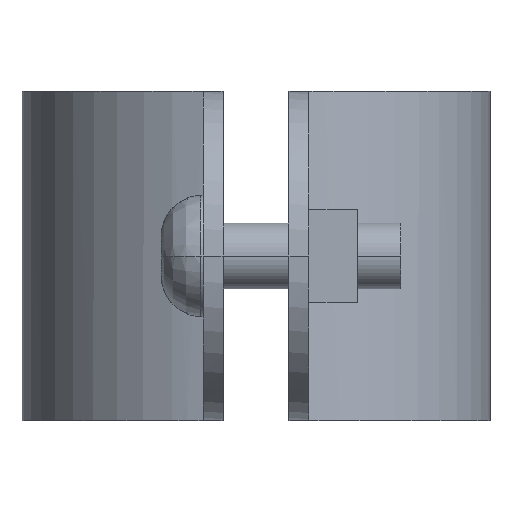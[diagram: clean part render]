
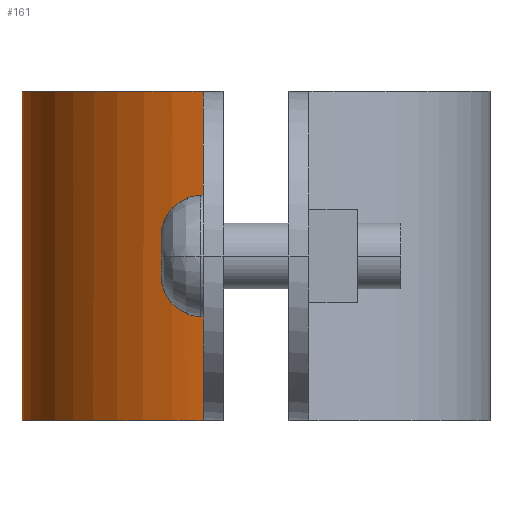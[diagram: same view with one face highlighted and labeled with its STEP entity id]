
A CAD part, left-side view. The second image highlights one B-rep face of the part: STEP entity #161.
In plain terms, the highlighted free-form (B-spline) face has degree [3, 1] with [4, 2] control points.
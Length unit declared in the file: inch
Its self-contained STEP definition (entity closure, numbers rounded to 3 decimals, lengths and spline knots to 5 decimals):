
#161=ADVANCED_FACE('',(#377),#378,.T.);
#377=FACE_OUTER_BOUND('',#682,.T.);
#378=B_SPLINE_SURFACE_WITH_KNOTS('',3,1,((#683,#684),(#685,#686),(#687,#688),(#689,#690)),.UNSPECIFIED.,.F.,.F.,.F.,(4,4),(2,2),(-1.0,-0.0),(0.0,1.25),.UNSPECIFIED.);
#682=EDGE_LOOP('',(#1429,#1430,#1431,#1432));
#683=CARTESIAN_POINT('',(1.39567,1.94918,0.0));
#684=CARTESIAN_POINT('',(1.39567,1.94918,1.25));
#685=CARTESIAN_POINT('',(0.98215,1.94918,0.0));
#686=CARTESIAN_POINT('',(0.98215,1.94918,1.25));
#687=CARTESIAN_POINT('',(0.6233,1.66388,0.0));
#688=CARTESIAN_POINT('',(0.6233,1.66388,1.25));
#689=CARTESIAN_POINT('',(0.53012,1.26101,0.0));
#690=CARTESIAN_POINT('',(0.53012,1.26101,1.25));
#1429=ORIENTED_EDGE('',*,*,#2040,.T.);
#1430=ORIENTED_EDGE('',*,*,#2041,.F.);
#1431=ORIENTED_EDGE('',*,*,#2042,.T.);
#1432=ORIENTED_EDGE('',*,*,#2043,.T.);
#2040=EDGE_CURVE('',#2330,#2331,#2332,.T.);
#2041=EDGE_CURVE('',#2333,#2331,#2334,.T.);
#2042=EDGE_CURVE('',#2333,#2335,#2336,.T.);
#2043=EDGE_CURVE('',#2335,#2330,#2337,.T.);
#2330=VERTEX_POINT('',#2781);
#2331=VERTEX_POINT('',#2782);
#2332=B_SPLINE_CURVE_WITH_KNOTS('',3,(#2783,#2784,#2785,#2786),.UNSPECIFIED.,.F.,.F.,(4,4),(0.0,1.0),.UNSPECIFIED.);
#2333=VERTEX_POINT('',#2787);
#2334=LINE('',#2788,#2789);
#2335=VERTEX_POINT('',#2790);
#2336=B_SPLINE_CURVE_WITH_KNOTS('',3,(#2791,#2792,#2793,#2794),.UNSPECIFIED.,.F.,.F.,(4,4),(-1.0,-0.0),.UNSPECIFIED.);
#2337=LINE('',#2795,#2796);
#2781=CARTESIAN_POINT('',(0.53012,1.26101,1.24989));
#2782=CARTESIAN_POINT('',(1.39567,1.94918,1.24989));
#2783=CARTESIAN_POINT('',(0.53012,1.26101,1.24989));
#2784=CARTESIAN_POINT('',(0.6233,1.66388,1.24989));
#2785=CARTESIAN_POINT('',(0.98215,1.94918,1.24989));
#2786=CARTESIAN_POINT('',(1.39567,1.94918,1.24989));
#2787=CARTESIAN_POINT('',(1.39567,1.94918,0.00011));
#2788=CARTESIAN_POINT('',(1.39567,1.94918,0.0));
#2789=VECTOR('',#3532,1.0);
#2790=CARTESIAN_POINT('',(0.53012,1.26101,0.00011));
#2791=CARTESIAN_POINT('',(1.39567,1.94918,0.00011));
#2792=CARTESIAN_POINT('',(0.98215,1.94918,0.00011));
#2793=CARTESIAN_POINT('',(0.6233,1.66388,0.00011));
#2794=CARTESIAN_POINT('',(0.53012,1.26101,0.00011));
#2795=CARTESIAN_POINT('',(0.53012,1.26101,0.0));
#2796=VECTOR('',#3533,1.0);
#3532=DIRECTION('',(0.0,0.0,1.0));
#3533=DIRECTION('',(0.0,0.0,1.0));
